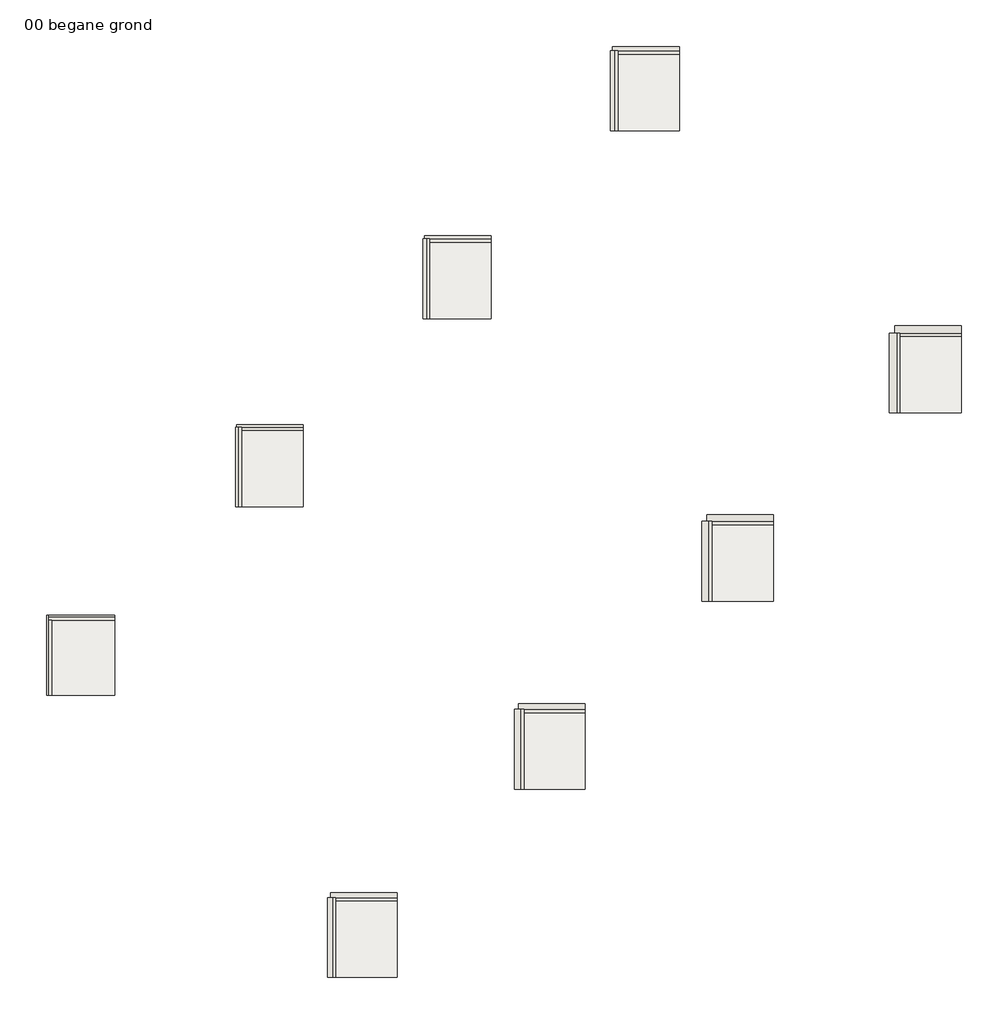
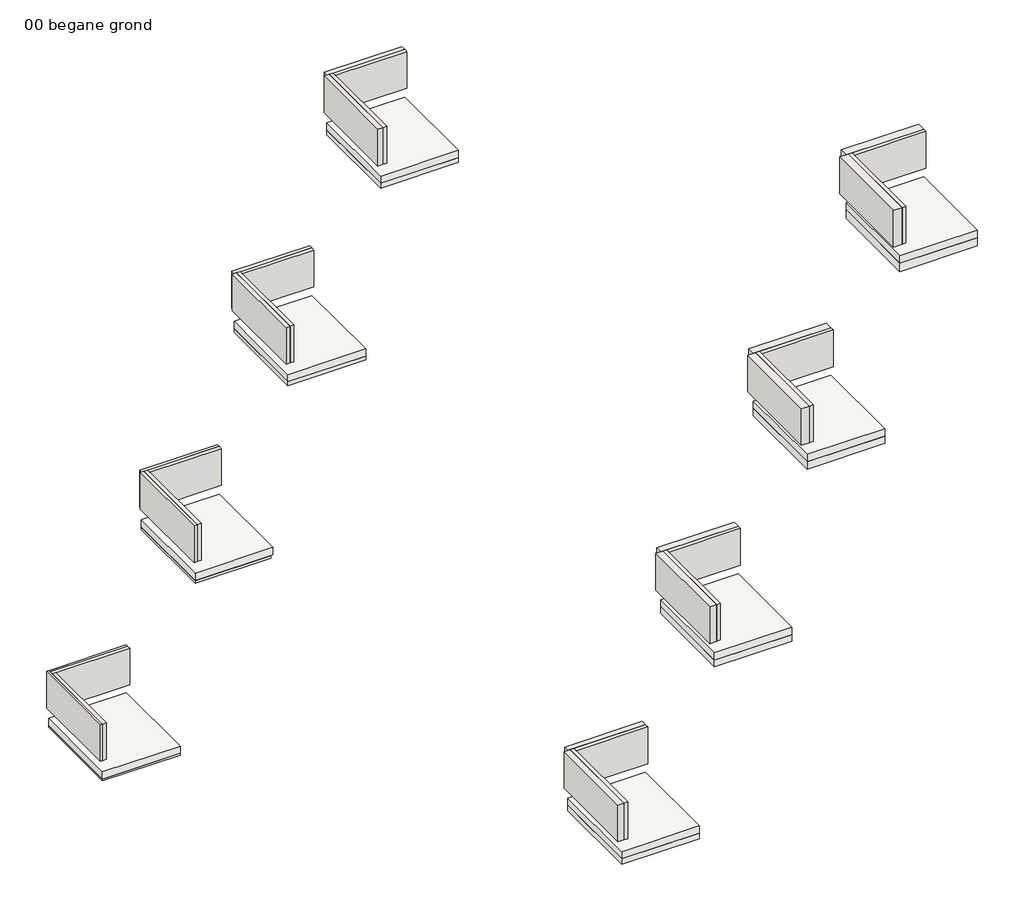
# One storey: 32 walls, 16 slabs.
"""IFC4 building model written with IfcOpenShell, lengths in millimetres."""

from ifc_helpers import new_model, si_unit, frame, origin, origin_with_axes, place, context, project, spatial, polyline, outline, extrude, faceted_brep, element, save

model = new_model("IFC4")

# Units and contexts
model_context = context("Model", 3, world=origin())
ifc_project = project(units=[si_unit("LENGTHUNIT", "METRE", prefix="MILLI")], contexts=[model_context])

# Site, building, storey
site = spatial("IfcSite", under=ifc_project)
building = spatial("IfcBuilding", under=site)
storey = spatial("IfcBuildingStorey", under=building, Name="00 begane grond", Elevation=0.0)

# Slabs
placement = place(None, origin())
element("IfcSlab", 1, ObjectType="NLRS_23_FL_Heraklith Tektalan A2 SmartTec 50x1000x600mm", at=placement, inside=storey, context=model_context, shape_type="SweptSolid", body=[
    extrude(outline(polyline([(2000.0, 2400.0), (2000.0, 0.0), (0.0, 0.0), (0.0, 2400.0), (2000.0, 2400.0)])), frame((0.0, 0.0, -550.0), z_axis=(0.0, 0.0, 1.0), x_axis=(1.0, 0.0, 0.0)), (0.0, 0.0, 1.0), 50.0),
])
element("IfcSlab", 2, ObjectType="NLRS_23_FL_Heraklith Tektalan A2 SmartTec 75x1000x600mm", at=placement, inside=storey, context=model_context, shape_type="SweptSolid", body=[
    extrude(outline(polyline([(7602.4919154, 8056.8542495), (7602.4919154, 5656.8542495), (5657.4919154, 5656.8542495), (5657.4919154, 8056.8542495), (7602.4919154, 8056.8542495)])), frame((0.0, 0.0, -575.0), z_axis=(0.0, 0.0, 1.0), x_axis=(1.0, 0.0, 0.0)), (0.0, 0.0, 1.0), 75.0),
])
element("IfcSlab", 3, ObjectType="NLRS_23_FL_Heraklith Tektalan A2 SmartTec 100x1000x600mm", at=placement, inside=storey, context=model_context, shape_type="SweptSolid", body=[
    extrude(outline(polyline([(13313.708499, 13713.708499), (13313.708499, 11313.708499), (11313.708499, 11313.708499), (11313.708499, 13713.708499), (13313.708499, 13713.708499)])), frame((0.0, 0.0, -600.0), z_axis=(0.0, 0.0, 1.0), x_axis=(1.0, 0.0, 0.0)), (0.0, 0.0, 1.0), 100.0),
])
element("IfcSlab", 4, ObjectType="NLRS_23_FL_Heraklith Tektalan A2 SmartTec 125x1000x600mm", at=placement, inside=storey, context=model_context, shape_type="SweptSolid", body=[
    extrude(outline(polyline([(18970.5627485, 19370.5627485), (18970.5627485, 16970.5627485), (16970.5627485, 16970.5627485), (16970.5627485, 19370.5627485), (18970.5627485, 19370.5627485)])), frame((0.0, 0.0, -625.0), z_axis=(0.0, 0.0, 1.0), x_axis=(1.0, 0.0, 0.0)), (0.0, 0.0, 1.0), 125.0),
])
element("IfcSlab", 5, ObjectType="NLRS_23_FL_Heraklith Tektalan A2 SmartTec 150x1000x600mm", at=placement, inside=storey, context=model_context, shape_type="SweptSolid", body=[
    extrude(outline(polyline([(10485.2813742, -6085.2813742), (10485.2813742, -8485.2813742), (8485.2813742, -8485.2813742), (8485.2813742, -6085.2813742), (10485.2813742, -6085.2813742)])), frame((0.0, 0.0, -650.0), z_axis=(0.0, 0.0, 1.0), x_axis=(1.0, 0.0, 0.0)), (0.0, 0.0, 1.0), 150.0),
])
element("IfcSlab", 6, ObjectType="NLRS_23_FL_Heraklith Tektalan A2 SmartTec 175x1000x600mm", at=placement, inside=storey, context=model_context, shape_type="SweptSolid", body=[
    extrude(outline(polyline([(16142.1356237, -428.4271247), (16142.1356237, -2828.4271247), (14142.1356237, -2828.4271247), (14142.1356237, -428.4271247), (16142.1356237, -428.4271247)])), frame((0.0, 0.0, -675.0), z_axis=(0.0, 0.0, 1.0), x_axis=(1.0, 0.0, 0.0)), (0.0, 0.0, 1.0), 175.0),
])
element("IfcSlab", 7, ObjectType="NLRS_23_FL_Heraklith Tektalan A2 SmartTec 200x1000x600mm", at=placement, inside=storey, context=model_context, shape_type="SweptSolid", body=[
    extrude(outline(polyline([(21798.9898732, 5228.4271247), (21798.9898732, 2828.4271247), (19798.9898732, 2828.4271247), (19798.9898732, 5228.4271247), (21798.9898732, 5228.4271247)])), frame((0.0, 0.0, -700.0), z_axis=(0.0, 0.0, 1.0), x_axis=(1.0, 0.0, 0.0)), (0.0, 0.0, 1.0), 200.0),
])
element("IfcSlab", 8, ObjectType="NLRS_23_FL_Heraklith Tektalan A2 SmartTec 225x1000x600mm", at=placement, inside=storey, context=model_context, shape_type="SweptSolid", body=[
    extrude(outline(polyline([(27455.8441227, 10885.2813742), (27455.8441227, 8485.2813742), (25455.8441227, 8485.2813742), (25455.8441227, 10885.2813742), (27455.8441227, 10885.2813742)])), frame((0.0, 0.0, -725.0), z_axis=(0.0, 0.0, 1.0), x_axis=(1.0, 0.0, 0.0)), (0.0, 0.0, 1.0), 225.0),
])
element("IfcSlab", 9, ObjectType="Generic 200mm", at=placement, inside=storey, context=model_context, shape_type="SweptSolid", body=[
    extrude(outline(polyline([(2000.0, 2400.0), (2000.0, 0.0), (0.0, 0.0), (0.0, 2400.0), (2000.0, 2400.0)])), frame((0.0, 0.0, -500.0), z_axis=(0.0, 0.0, 1.0), x_axis=(1.0, 0.0, 0.0)), (0.0, 0.0, 1.0), 200.0),
])
element("IfcSlab", 10, ObjectType="Generic 200mm", at=placement, inside=storey, context=model_context, shape_type="SweptSolid", body=[
    extrude(outline(polyline([(7656.8542495, 8056.8542495), (7656.8542495, 5656.8542495), (5656.8542495, 5656.8542495), (5656.8542495, 8056.8542495), (7656.8542495, 8056.8542495)])), frame((0.0, 0.0, -500.0), z_axis=(0.0, 0.0, 1.0), x_axis=(1.0, 0.0, 0.0)), (0.0, 0.0, 1.0), 200.0),
])
element("IfcSlab", 11, ObjectType="Generic 200mm", at=placement, inside=storey, context=model_context, shape_type="SweptSolid", body=[
    extrude(outline(polyline([(13313.708499, 13713.708499), (13313.708499, 11313.708499), (11313.708499, 11313.708499), (11313.708499, 13713.708499), (13313.708499, 13713.708499)])), frame((0.0, 0.0, -500.0), z_axis=(0.0, 0.0, 1.0), x_axis=(1.0, 0.0, 0.0)), (0.0, 0.0, 1.0), 200.0),
])
element("IfcSlab", 12, ObjectType="Generic 200mm", at=placement, inside=storey, context=model_context, shape_type="SweptSolid", body=[
    extrude(outline(polyline([(18970.5627485, 19370.5627485), (18970.5627485, 16970.5627485), (16970.5627485, 16970.5627485), (16970.5627485, 19370.5627485), (18970.5627485, 19370.5627485)])), frame((0.0, 0.0, -500.0), z_axis=(0.0, 0.0, 1.0), x_axis=(1.0, 0.0, 0.0)), (0.0, 0.0, 1.0), 200.0),
])
element("IfcSlab", 13, ObjectType="Generic 200mm", at=placement, inside=storey, context=model_context, shape_type="SweptSolid", body=[
    extrude(outline(polyline([(27455.8441227, 10885.2813742), (27455.8441227, 8485.2813742), (25455.8441227, 8485.2813742), (25455.8441227, 10885.2813742), (27455.8441227, 10885.2813742)])), frame((0.0, 0.0, -500.0), z_axis=(0.0, 0.0, 1.0), x_axis=(1.0, 0.0, 0.0)), (0.0, 0.0, 1.0), 200.0),
])
element("IfcSlab", 14, ObjectType="Generic 200mm", at=placement, inside=storey, context=model_context, shape_type="SweptSolid", body=[
    extrude(outline(polyline([(21798.9898732, 5228.4271247), (21798.9898732, 2828.4271247), (19798.9898732, 2828.4271247), (19798.9898732, 5228.4271247), (21798.9898732, 5228.4271247)])), frame((0.0, 0.0, -500.0), z_axis=(0.0, 0.0, 1.0), x_axis=(1.0, 0.0, 0.0)), (0.0, 0.0, 1.0), 200.0),
])
element("IfcSlab", 15, ObjectType="Generic 200mm", at=placement, inside=storey, context=model_context, shape_type="SweptSolid", body=[
    extrude(outline(polyline([(16142.1356237, -428.4271247), (16142.1356237, -2828.4271247), (14142.1356237, -2828.4271247), (14142.1356237, -428.4271247), (16142.1356237, -428.4271247)])), frame((0.0, 0.0, -500.0), z_axis=(0.0, 0.0, 1.0), x_axis=(1.0, 0.0, 0.0)), (0.0, 0.0, 1.0), 200.0),
])
element("IfcSlab", 16, ObjectType="Generic 200mm", at=placement, inside=storey, context=model_context, shape_type="SweptSolid", body=[
    extrude(outline(polyline([(10485.2813742, -6085.2813742), (10485.2813742, -8485.2813742), (8485.2813742, -8485.2813742), (8485.2813742, -6085.2813742), (10485.2813742, -6085.2813742)])), frame((0.0, 0.0, -500.0), z_axis=(0.0, 0.0, 1.0), x_axis=(1.0, 0.0, 0.0)), (0.0, 0.0, 1.0), 200.0),
])

# Walls
element("IfcWall", 17, ObjectType="NLRS_41_WA_Heraklith Tektalan A2 SmartTec 50x1000x600mm", at=placement, inside=storey, context=model_context, shape_type="SweptSolid", body=[
    extrude(outline(polyline([(2000.0, 2350.0), (0.0, 2350.0), (0.0, 2400.0), (2000.0, 2400.0), (2000.0, 2350.0)])), origin_with_axes(), (0.0, 0.0, 1.0), 1000.0),
])
element("IfcWall", 18, ObjectType="NLRS_42_WA_Heraklith Tektalan A2 SmartTec 50x1000x600mm", at=placement, inside=storey, context=model_context, shape_type="SweptSolid", body=[
    extrude(outline(polyline([(0.0, 2400.0), (0.0, 0.0), (-55.0, 0.0), (-55.0, 2400.0), (0.0, 2400.0)])), origin_with_axes(), (0.0, 0.0, 1.0), 1000.0),
])
element("IfcWall", 19, ObjectType="NLRS_41_WA_Heraklith Tektalan A2 SmartTec 75x1000x600mm", at=placement, inside=storey, context=model_context, shape_type="SweptSolid", body=[
    extrude(outline(polyline([(7656.8542495, 8056.8542495), (5656.8542495, 8056.8542495), (5656.8542495, 8131.8542495), (7656.8542495, 8131.8542495), (7656.8542495, 8056.8542495)])), origin_with_axes(), (0.0, 0.0, 1.0), 1000.0),
])
element("IfcWall", 20, ObjectType="NLRS_42_WA_Heraklith Tektalan A2 SmartTec 75x1000x600mm", at=placement, inside=storey, context=model_context, shape_type="SweptSolid", body=[
    extrude(outline(polyline([(5711.8542495, 8056.8542495), (5711.8542495, 5656.8542495), (5631.8542495, 5656.8542495), (5631.8542495, 8056.8542495), (5711.8542495, 8056.8542495)])), origin_with_axes(), (0.0, 0.0, 1.0), 1000.0),
])
element("IfcWall", 21, ObjectType="NLRS_41_WA_Heraklith Tektalan A2 SmartTec 100x1000x600mm", at=placement, inside=storey, context=model_context, shape_type="SweptSolid", body=[
    extrude(outline(polyline([(13313.708499, 13713.708499), (11313.708499, 13713.708499), (11313.708499, 13813.708499), (13313.708499, 13813.708499), (13313.708499, 13713.708499)])), origin_with_axes(), (0.0, 0.0, 1.0), 1000.0),
])
element("IfcWall", 22, ObjectType="NLRS_42_WA_Heraklith Tektalan A2 SmartTec 100x1000x600mm", at=placement, inside=storey, context=model_context, shape_type="SweptSolid", body=[
    extrude(outline(polyline([(11368.708499, 13713.708499), (11368.708499, 11313.708499), (11268.708499, 11313.708499), (11268.708499, 13713.708499), (11368.708499, 13713.708499)])), origin_with_axes(), (0.0, 0.0, 1.0), 1000.0),
])
element("IfcWall", 23, ObjectType="NLRS_41_WA_Heraklith Tektalan A2 SmartTec 125x1000x600mm", at=placement, inside=storey, context=model_context, shape_type="SweptSolid", body=[
    extrude(outline(polyline([(18970.5627485, 19370.5627485), (16970.5627485, 19370.5627485), (16970.5627485, 19495.5627485), (18970.5627485, 19495.5627485), (18970.5627485, 19370.5627485)])), origin_with_axes(), (0.0, 0.0, 1.0), 1000.0),
])
element("IfcWall", 24, ObjectType="NLRS_42_WA_Heraklith Tektalan A2 SmartTec 125x1000x600mm", at=placement, inside=storey, context=model_context, shape_type="SweptSolid", body=[
    extrude(outline(polyline([(17025.5627485, 19370.5627485), (17025.5627485, 16970.5627485), (16900.5627485, 16970.5627485), (16900.5627485, 19370.5627485), (17025.5627485, 19370.5627485)])), origin_with_axes(), (0.0, 0.0, 1.0), 1000.0),
])
element("IfcWall", 25, ObjectType="NLRS_41_WA_Heraklith Tektalan A2 SmartTec 150x1000x600mm", at=placement, inside=storey, context=model_context, shape_type="SweptSolid", body=[
    extrude(outline(polyline([(10485.2813742, -6085.2813742), (8485.2813742, -6085.2813742), (8485.2813742, -5935.2813742), (10485.2813742, -5935.2813742), (10485.2813742, -6085.2813742)])), origin_with_axes(), (0.0, 0.0, 1.0), 1000.0),
])
element("IfcWall", 26, ObjectType="NLRS_42_WA_Heraklith Tektalan A2 SmartTec 150x1000x600mm", at=placement, inside=storey, context=model_context, shape_type="SweptSolid", body=[
    extrude(outline(polyline([(8540.2813742, -6085.2813742), (8540.2813742, -8485.2813742), (8390.2813742, -8485.2813742), (8390.2813742, -6085.2813742), (8540.2813742, -6085.2813742)])), origin_with_axes(), (0.0, 0.0, 1.0), 1000.0),
])
element("IfcWall", 27, ObjectType="NLRS_41_WA_Heraklith Tektalan A2 SmartTec 175x1000x600mm", at=placement, inside=storey, context=model_context, shape_type="SweptSolid", body=[
    extrude(outline(polyline([(16142.1356237, -428.4271247), (14142.1356237, -428.4271247), (14142.1356237, -253.4271247), (16142.1356237, -253.4271247), (16142.1356237, -428.4271247)])), origin_with_axes(), (0.0, 0.0, 1.0), 1000.0),
])
element("IfcWall", 28, ObjectType="NLRS_42_WA_Heraklith Tektalan A2 SmartTec 175x1000x600mm", at=placement, inside=storey, context=model_context, shape_type="SweptSolid", body=[
    extrude(outline(polyline([(14197.1356237, -428.4271247), (14197.1356237, -2828.4271247), (14022.1356237, -2828.4271247), (14022.1356237, -428.4271247), (14197.1356237, -428.4271247)])), origin_with_axes(), (0.0, 0.0, 1.0), 1000.0),
])
element("IfcWall", 29, ObjectType="NLRS_41_WA_Heraklith Tektalan A2 SmartTec 200x1000x600mm", at=placement, inside=storey, context=model_context, shape_type="SweptSolid", body=[
    extrude(outline(polyline([(21798.9898732, 5228.4271247), (19798.9898732, 5228.4271247), (19798.9898732, 5428.4271247), (21798.9898732, 5428.4271247), (21798.9898732, 5228.4271247)])), origin_with_axes(), (0.0, 0.0, 1.0), 1000.0),
])
element("IfcWall", 30, ObjectType="NLRS_42_WA_Heraklith Tektalan A2 SmartTec 200x1000x600mm", at=placement, inside=storey, context=model_context, shape_type="SweptSolid", body=[
    extrude(outline(polyline([(19853.9898732, 5228.4271247), (19853.9898732, 2828.4271247), (19653.9898732, 2828.4271247), (19653.9898732, 5228.4271247), (19853.9898732, 5228.4271247)])), origin_with_axes(), (0.0, 0.0, 1.0), 1000.0),
])
element("IfcWall", 31, ObjectType="NLRS_41_WA_Heraklith Tektalan A2 SmartTec 225x1000x600mm", at=placement, inside=storey, context=model_context, shape_type="SweptSolid", body=[
    extrude(outline(polyline([(27455.8441227, 10885.2813742), (25455.8441227, 10885.2813742), (25455.8441227, 11110.2813742), (27455.8441227, 11110.2813742), (27455.8441227, 10885.2813742)])), origin_with_axes(), (0.0, 0.0, 1.0), 1000.0),
])
element("IfcWall", 32, ObjectType="NLRS_42_WA_Heraklith Tektalan A2 SmartTec 225x1000x600mm", at=placement, inside=storey, context=model_context, shape_type="SweptSolid", body=[
    extrude(outline(polyline([(25510.8441227, 10885.2813742), (25510.8441227, 8485.2813742), (25285.8441227, 8485.2813742), (25285.8441227, 10885.2813742), (25510.8441227, 10885.2813742)])), origin_with_axes(), (0.0, 0.0, 1.0), 1000.0),
])
element("IfcWall", 33, ObjectType="Generic_100mm", at=placement, inside=storey, context=model_context, shape_type="SweptSolid", body=[
    extrude(outline(polyline([(100.0, 2250.0), (100.0, 0.0), (0.0, 0.0), (0.0, 2250.0), (100.0, 2250.0)])), origin_with_axes(), (0.0, 0.0, 1.0), 1000.0),
])
element("IfcWall", 34, ObjectType="Generic_100mm", at=placement, inside=storey, context=model_context, shape_type="Brep", body=[
    faceted_brep([(2000.0, 2350.0, 0.0), (0.0, 2350.0, 0.0), (0.0, 2350.0, 1000.0), (2000.0, 2350.0, 1000.0), (2000.0, 2250.0, 0.0), (2000.0, 2250.0, 1000.0), (100.0, 2250.0, 1000.0), (0.0, 2250.0, 1000.0), (0.0, 2250.0, 0.0), (100.0, 2250.0, 0.0)], [[[0, 1, 2, 3]], [[4, 5, 6, 7, 8, 9]], [[1, 0, 4, 9, 8]], [[3, 2, 7, 6, 5]], [[0, 3, 5, 4]], [[2, 1, 8, 7]]]),
])
element("IfcWall", 35, ObjectType="Generic_100mm", at=placement, inside=storey, context=model_context, shape_type="Brep", body=[
    faceted_brep([(5811.8542495, 5656.8542495, 0.0), (5811.8542495, 7956.8542495, 0.0), (5811.8542495, 8056.8542495, 0.0), (5811.8542495, 8056.8542495, 1000.0), (5811.8542495, 7956.8542495, 1000.0), (5811.8542495, 5656.8542495, 1000.0), (5711.8542495, 5656.8542495, 0.0), (5711.8542495, 5656.8542495, 1000.0), (5711.8542495, 8056.8542495, 1000.0), (5711.8542495, 8056.8542495, 0.0)], [[[0, 1, 2, 3, 4, 5]], [[6, 7, 8, 9]], [[2, 1, 0, 6, 9]], [[5, 4, 3, 8, 7]], [[0, 5, 7, 6]], [[3, 2, 9, 8]]]),
])
element("IfcWall", 36, ObjectType="Generic_100mm", at=placement, inside=storey, context=model_context, shape_type="SweptSolid", body=[
    extrude(outline(polyline([(5811.8542495, 8056.8542495), (7656.8542495, 8056.8542495), (7656.8542495, 7956.8542495), (5811.8542495, 7956.8542495), (5811.8542495, 8056.8542495)])), origin_with_axes(), (0.0, 0.0, 1.0), 1000.0),
])
element("IfcWall", 37, ObjectType="Generic_100mm", at=placement, inside=storey, context=model_context, shape_type="Brep", body=[
    faceted_brep([(11468.708499, 11313.708499, 0.0), (11468.708499, 13613.708499, 0.0), (11468.708499, 13713.708499, 0.0), (11468.708499, 13713.708499, 1000.0), (11468.708499, 13613.708499, 1000.0), (11468.708499, 11313.708499, 1000.0), (11368.708499, 11313.708499, 0.0), (11368.708499, 11313.708499, 1000.0), (11368.708499, 13713.708499, 1000.0), (11368.708499, 13713.708499, 0.0)], [[[0, 1, 2, 3, 4, 5]], [[6, 7, 8, 9]], [[2, 1, 0, 6, 9]], [[5, 4, 3, 8, 7]], [[0, 5, 7, 6]], [[3, 2, 9, 8]]]),
])
element("IfcWall", 38, ObjectType="Generic_100mm", at=placement, inside=storey, context=model_context, shape_type="SweptSolid", body=[
    extrude(outline(polyline([(11468.708499, 13713.708499), (13313.708499, 13713.708499), (13313.708499, 13613.708499), (11468.708499, 13613.708499), (11468.708499, 13713.708499)])), origin_with_axes(), (0.0, 0.0, 1.0), 1000.0),
])
element("IfcWall", 39, ObjectType="Generic_100mm", at=placement, inside=storey, context=model_context, shape_type="Brep", body=[
    faceted_brep([(17125.5627485, 16970.5627485, 0.0), (17125.5627485, 19270.5627485, 0.0), (17125.5627485, 19370.5627485, 0.0), (17125.5627485, 19370.5627485, 1000.0), (17125.5627485, 19270.5627485, 1000.0), (17125.5627485, 16970.5627485, 1000.0), (17025.5627485, 16970.5627485, 0.0), (17025.5627485, 16970.5627485, 1000.0), (17025.5627485, 19370.5627485, 1000.0), (17025.5627485, 19370.5627485, 0.0)], [[[0, 1, 2, 3, 4, 5]], [[6, 7, 8, 9]], [[2, 1, 0, 6, 9]], [[5, 4, 3, 8, 7]], [[0, 5, 7, 6]], [[3, 2, 9, 8]]]),
])
element("IfcWall", 40, ObjectType="Generic_100mm", at=placement, inside=storey, context=model_context, shape_type="SweptSolid", body=[
    extrude(outline(polyline([(17125.5627485, 19370.5627485), (18970.5627485, 19370.5627485), (18970.5627485, 19270.5627485), (17125.5627485, 19270.5627485), (17125.5627485, 19370.5627485)])), origin_with_axes(), (0.0, 0.0, 1.0), 1000.0),
])
element("IfcWall", 41, ObjectType="Generic_100mm", at=placement, inside=storey, context=model_context, shape_type="Brep", body=[
    faceted_brep([(25610.8441227, 8485.2813742, 0.0), (25610.8441227, 10785.2813742, 0.0), (25610.8441227, 10885.2813742, 0.0), (25610.8441227, 10885.2813742, 1000.0), (25610.8441227, 10785.2813742, 1000.0), (25610.8441227, 8485.2813742, 1000.0), (25510.8441227, 8485.2813742, 0.0), (25510.8441227, 8485.2813742, 1000.0), (25510.8441227, 10885.2813742, 1000.0), (25510.8441227, 10885.2813742, 0.0)], [[[0, 1, 2, 3, 4, 5]], [[6, 7, 8, 9]], [[2, 1, 0, 6, 9]], [[5, 4, 3, 8, 7]], [[0, 5, 7, 6]], [[3, 2, 9, 8]]]),
])
element("IfcWall", 42, ObjectType="Generic_100mm", at=placement, inside=storey, context=model_context, shape_type="SweptSolid", body=[
    extrude(outline(polyline([(25610.8441227, 10885.2813742), (27455.8441227, 10885.2813742), (27455.8441227, 10785.2813742), (25610.8441227, 10785.2813742), (25610.8441227, 10885.2813742)])), origin_with_axes(), (0.0, 0.0, 1.0), 1000.0),
])
element("IfcWall", 43, ObjectType="Generic_100mm", at=placement, inside=storey, context=model_context, shape_type="Brep", body=[
    faceted_brep([(19953.9898732, 2828.4271247, 0.0), (19953.9898732, 5128.4271247, 0.0), (19953.9898732, 5228.4271247, 0.0), (19953.9898732, 5228.4271247, 1000.0), (19953.9898732, 5128.4271247, 1000.0), (19953.9898732, 2828.4271247, 1000.0), (19853.9898732, 2828.4271247, 0.0), (19853.9898732, 2828.4271247, 1000.0), (19853.9898732, 5228.4271247, 1000.0), (19853.9898732, 5228.4271247, 0.0)], [[[0, 1, 2, 3, 4, 5]], [[6, 7, 8, 9]], [[2, 1, 0, 6, 9]], [[5, 4, 3, 8, 7]], [[0, 5, 7, 6]], [[3, 2, 9, 8]]]),
])
element("IfcWall", 44, ObjectType="Generic_100mm", at=placement, inside=storey, context=model_context, shape_type="SweptSolid", body=[
    extrude(outline(polyline([(19953.9898732, 5228.4271247), (21798.9898732, 5228.4271247), (21798.9898732, 5128.4271247), (19953.9898732, 5128.4271247), (19953.9898732, 5228.4271247)])), origin_with_axes(), (0.0, 0.0, 1.0), 1000.0),
])
element("IfcWall", 45, ObjectType="Generic_100mm", at=placement, inside=storey, context=model_context, shape_type="Brep", body=[
    faceted_brep([(14297.1356237, -2828.4271247, 0.0), (14297.1356237, -528.4271247, 0.0), (14297.1356237, -428.4271247, 0.0), (14297.1356237, -428.4271247, 1000.0), (14297.1356237, -528.4271247, 1000.0), (14297.1356237, -2828.4271247, 1000.0), (14197.1356237, -2828.4271247, 0.0), (14197.1356237, -2828.4271247, 1000.0), (14197.1356237, -428.4271247, 1000.0), (14197.1356237, -428.4271247, 0.0)], [[[0, 1, 2, 3, 4, 5]], [[6, 7, 8, 9]], [[2, 1, 0, 6, 9]], [[5, 4, 3, 8, 7]], [[0, 5, 7, 6]], [[3, 2, 9, 8]]]),
])
element("IfcWall", 46, ObjectType="Generic_100mm", at=placement, inside=storey, context=model_context, shape_type="SweptSolid", body=[
    extrude(outline(polyline([(14297.1356237, -428.4271247), (16142.1356237, -428.4271247), (16142.1356237, -528.4271247), (14297.1356237, -528.4271247), (14297.1356237, -428.4271247)])), origin_with_axes(), (0.0, 0.0, 1.0), 1000.0),
])
element("IfcWall", 47, ObjectType="Generic_100mm", at=placement, inside=storey, context=model_context, shape_type="Brep", body=[
    faceted_brep([(8640.2813742, -8485.2813742, 0.0), (8640.2813742, -6185.2813742, 0.0), (8640.2813742, -6085.2813742, 0.0), (8640.2813742, -6085.2813742, 1000.0), (8640.2813742, -6185.2813742, 1000.0), (8640.2813742, -8485.2813742, 1000.0), (8540.2813742, -8485.2813742, 0.0), (8540.2813742, -8485.2813742, 1000.0), (8540.2813742, -6085.2813742, 1000.0), (8540.2813742, -6085.2813742, 0.0)], [[[0, 1, 2, 3, 4, 5]], [[6, 7, 8, 9]], [[2, 1, 0, 6, 9]], [[5, 4, 3, 8, 7]], [[0, 5, 7, 6]], [[3, 2, 9, 8]]]),
])
element("IfcWall", 48, ObjectType="Generic_100mm", at=placement, inside=storey, context=model_context, shape_type="SweptSolid", body=[
    extrude(outline(polyline([(8640.2813742, -6085.2813742), (10485.2813742, -6085.2813742), (10485.2813742, -6185.2813742), (8640.2813742, -6185.2813742), (8640.2813742, -6085.2813742)])), origin_with_axes(), (0.0, 0.0, 1.0), 1000.0),
])

save(model, "model.ifc")
